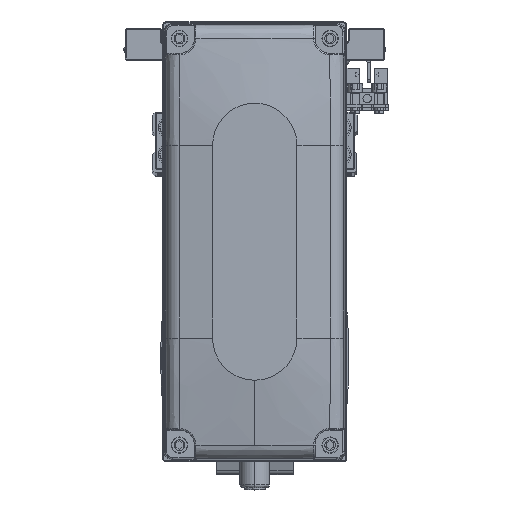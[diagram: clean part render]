
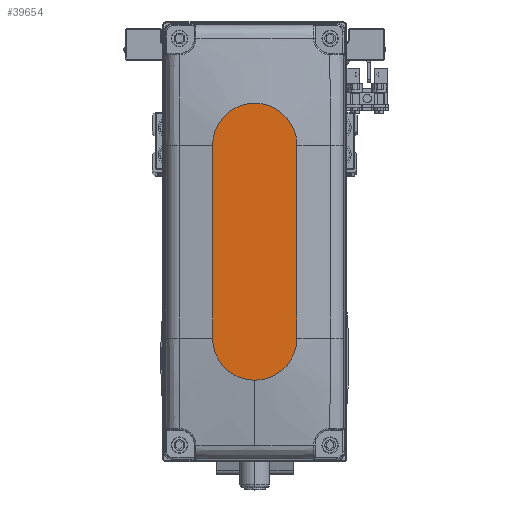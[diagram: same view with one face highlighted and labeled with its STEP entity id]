
A CAD part, top view. The second image highlights one B-rep face of the part: STEP entity #39654.
In plain terms, the highlighted planar face has unit normal (0, 0, 1).
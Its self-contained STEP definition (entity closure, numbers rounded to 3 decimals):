
#12 = CARTESIAN_POINT ( 'NONE',  ( 32., 0., 35. ) ) ;
#880 = DIRECTION ( 'NONE',  ( 1., 0., 0. ) ) ;
#1117 = AXIS2_PLACEMENT_3D ( 'NONE', #23202, #37614, #5200 ) ;
#1804 = CARTESIAN_POINT ( 'NONE',  ( 46., 0., 35. ) ) ;
#2230 = EDGE_LOOP ( 'NONE', ( #34051, #45623, #19116, #9043, #30560 ) ) ;
#3064 = VERTEX_POINT ( 'NONE', #44528 ) ;
#4456 = PLANE ( 'NONE',  #40597 ) ;
#4702 = DIRECTION ( 'NONE',  ( 0., 0., 1. ) ) ;
#4807 = CIRCLE ( 'NONE', #31246, 14. ) ;
#5200 = DIRECTION ( 'NONE',  ( 1., 0., 0. ) ) ;
#5792 = VECTOR ( 'NONE', #23212, 1000. ) ;
#7947 = LINE ( 'NONE', #22395, #33511 ) ;
#8773 = CARTESIAN_POINT ( 'NONE',  ( -32., 14., 35. ) ) ;
#9043 = ORIENTED_EDGE ( 'NONE', *, *, #37524, .T. ) ;
#11708 = VERTEX_POINT ( 'NONE', #1804 ) ;
#14480 = DIRECTION ( 'NONE',  ( 0., 0., 1. ) ) ;
#16854 = EDGE_CURVE ( 'NONE', #3064, #30499, #7947, .T. ) ;
#18784 = CARTESIAN_POINT ( 'NONE',  ( -32., 14., 35. ) ) ;
#18893 = CARTESIAN_POINT ( 'NONE',  ( 0., 0., 35. ) ) ;
#19116 = ORIENTED_EDGE ( 'NONE', *, *, #16854, .T. ) ;
#19141 = DIRECTION ( 'NONE',  ( 1., 0., 0. ) ) ;
#21686 = AXIS2_PLACEMENT_3D ( 'NONE', #12, #14480, #28903 ) ;
#22395 = CARTESIAN_POINT ( 'NONE',  ( -32., -14., 35. ) ) ;
#23202 = CARTESIAN_POINT ( 'NONE',  ( 32., 0., 35. ) ) ;
#23212 = DIRECTION ( 'NONE',  ( -1., 0., 0. ) ) ;
#28903 = DIRECTION ( 'NONE',  ( 1., 0., 0. ) ) ;
#29723 = EDGE_CURVE ( 'NONE', #31959, #3064, #4807, .T. ) ;
#29862 = CARTESIAN_POINT ( 'NONE',  ( 32., -14., 35. ) ) ;
#30499 = VERTEX_POINT ( 'NONE', #29862 ) ;
#30560 = ORIENTED_EDGE ( 'NONE', *, *, #40361, .T. ) ;
#31246 = AXIS2_PLACEMENT_3D ( 'NONE', #37120, #4702, #19141 ) ;
#31959 = VERTEX_POINT ( 'NONE', #18784 ) ;
#32901 = CARTESIAN_POINT ( 'NONE',  ( 32., 14., 35. ) ) ;
#33321 = DIRECTION ( 'NONE',  ( 0., 0., 1. ) ) ;
#33511 = VECTOR ( 'NONE', #36813, 1000. ) ;
#34051 = ORIENTED_EDGE ( 'NONE', *, *, #38697, .T. ) ;
#36243 = VERTEX_POINT ( 'NONE', #32901 ) ;
#36813 = DIRECTION ( 'NONE',  ( 1., 0., 0. ) ) ;
#36864 = FACE_OUTER_BOUND ( 'NONE', #2230, .T. ) ;
#37120 = CARTESIAN_POINT ( 'NONE',  ( -32., 0., 35. ) ) ;
#37524 = EDGE_CURVE ( 'NONE', #30499, #11708, #41903, .T. ) ;
#37614 = DIRECTION ( 'NONE',  ( 0., 0., 1. ) ) ;
#38697 = EDGE_CURVE ( 'NONE', #36243, #31959, #41153, .T. ) ;
#39654 = ADVANCED_FACE ( 'NONE', ( #36864 ), #4456, .T. ) ;
#40361 = EDGE_CURVE ( 'NONE', #11708, #36243, #42048, .T. ) ;
#40597 = AXIS2_PLACEMENT_3D ( 'NONE', #18893, #33321, #880 ) ;
#41153 = LINE ( 'NONE', #8773, #5792 ) ;
#41903 = CIRCLE ( 'NONE', #1117, 14. ) ;
#42048 = CIRCLE ( 'NONE', #21686, 14. ) ;
#44528 = CARTESIAN_POINT ( 'NONE',  ( -32., -14., 35. ) ) ;
#45623 = ORIENTED_EDGE ( 'NONE', *, *, #29723, .T. ) ;
